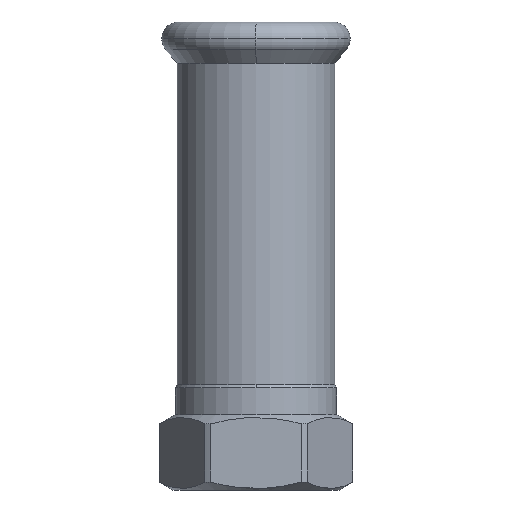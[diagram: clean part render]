
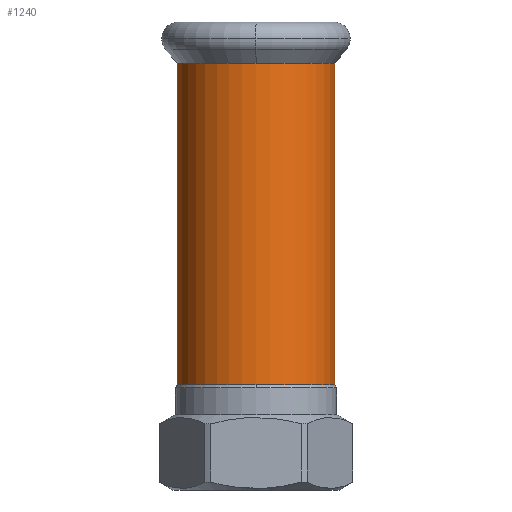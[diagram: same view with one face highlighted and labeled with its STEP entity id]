
A CAD part, left-side view. The second image highlights one B-rep face of the part: STEP entity #1240.
In plain terms, the highlighted cylindrical face has radius 15.65 mm (diameter 31.3 mm), a partial arc.
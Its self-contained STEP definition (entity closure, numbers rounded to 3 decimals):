
#750=CARTESIAN_POINT('',(49.067,47.456,26.93));
#760=DIRECTION('',(0.,0.,-1.));
#770=DIRECTION('',(0.,-1.,0.));
#780=AXIS2_PLACEMENT_3D('',#750,#760,#770);
#790=CYLINDRICAL_SURFACE('',#780,15.65);
#800=CARTESIAN_POINT('',(49.067,47.456,59.764));
#810=DIRECTION('',(0.,0.,1.));
#820=DIRECTION('',(-1.,0.,0.));
#830=AXIS2_PLACEMENT_3D('',#800,#810,#820);
#840=CIRCLE('',#830,15.65);
#850=CARTESIAN_POINT('',(33.417,47.456,59.764));
#860=VERTEX_POINT('',#850);
#870=CARTESIAN_POINT('',(49.067,31.806,59.764));
#880=VERTEX_POINT('',#870);
#890=EDGE_CURVE('',#860,#880,#840,.T.);
#900=ORIENTED_EDGE('',*,*,#890,.F.);
#910=CARTESIAN_POINT('',(49.067,31.806,26.93));
#920=DIRECTION('',(0.,0.,-1.));
#930=VECTOR('',#920,1.);
#940=LINE('',#910,#930);
#950=CARTESIAN_POINT('',(49.067,31.806,-4.087));
#960=VERTEX_POINT('',#950);
#970=EDGE_CURVE('',#880,#960,#940,.T.);
#980=ORIENTED_EDGE('',*,*,#970,.F.);
#990=CARTESIAN_POINT('',(49.067,47.456,-4.087));
#1000=DIRECTION('',(0.,0.,-1.));
#1010=DIRECTION('',(-1.,0.,0.));
#1020=AXIS2_PLACEMENT_3D('',#990,#1000,#1010);
#1030=CIRCLE('',#1020,15.65);
#1040=CARTESIAN_POINT('',(33.417,47.456,-4.087));
#1050=VERTEX_POINT('',#1040);
#1060=EDGE_CURVE('',#960,#1050,#1030,.T.);
#1070=ORIENTED_EDGE('',*,*,#1060,.F.);
#1080=CARTESIAN_POINT('',(49.067,63.106,-4.087));
#1090=VERTEX_POINT('',#1080);
#1100=EDGE_CURVE('',#1050,#1090,#1030,.T.);
#1110=ORIENTED_EDGE('',*,*,#1100,.F.);
#1120=CARTESIAN_POINT('',(49.067,63.106,26.93));
#1130=DIRECTION('',(0.,0.,-1.));
#1140=VECTOR('',#1130,1.);
#1150=LINE('',#1120,#1140);
#1160=CARTESIAN_POINT('',(49.067,63.106,59.764));
#1170=VERTEX_POINT('',#1160);
#1180=EDGE_CURVE('',#1170,#1090,#1150,.T.);
#1190=ORIENTED_EDGE('',*,*,#1180,.T.);
#1200=EDGE_CURVE('',#1170,#860,#840,.T.);
#1210=ORIENTED_EDGE('',*,*,#1200,.F.);
#1220=EDGE_LOOP('',(#1210,#1190,#1110,#1070,#980,#900));
#1230=FACE_OUTER_BOUND('',#1220,.T.);
#1240=ADVANCED_FACE('',(#1230),#790,.T.);
